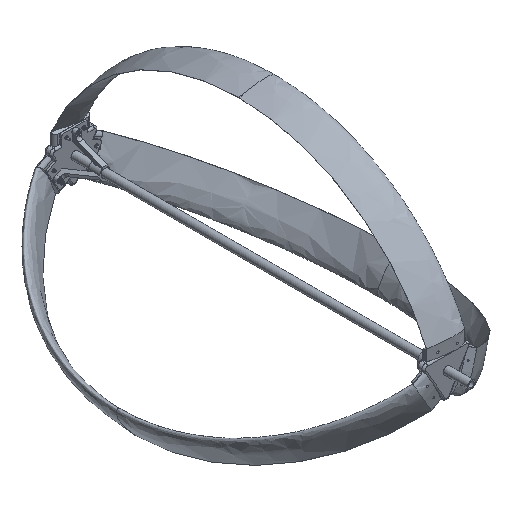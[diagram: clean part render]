
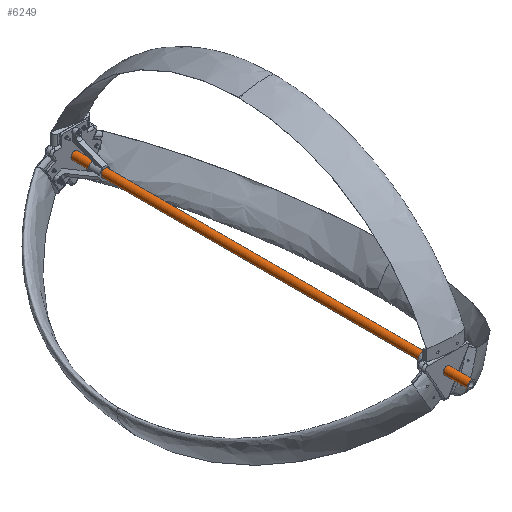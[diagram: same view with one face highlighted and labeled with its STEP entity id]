
A CAD part, isometric view. The second image highlights one B-rep face of the part: STEP entity #6249.
In plain terms, the highlighted cylindrical face has radius 10 mm (diameter 20 mm), a full revolution.
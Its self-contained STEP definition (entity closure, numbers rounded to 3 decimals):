
#896=FACE_OUTER_BOUND('',#1322,.T.);
#1322=EDGE_LOOP('',(#5126,#5127,#5128,#5129,#5130));
#1798=LINE('',#15089,#2161);
#2161=VECTOR('',#8459,10.);
#2500=CIRCLE('',#7100,10.);
#2501=CIRCLE('',#7101,10.);
#2502=CIRCLE('',#7103,10.);
#2980=VERTEX_POINT('',#15082);
#2981=VERTEX_POINT('',#15084);
#2982=VERTEX_POINT('',#15088);
#3735=EDGE_CURVE('',#2980,#2981,#2500,.T.);
#3736=EDGE_CURVE('',#2981,#2980,#2501,.T.);
#3737=EDGE_CURVE('',#2981,#2982,#1798,.T.);
#3738=EDGE_CURVE('',#2982,#2982,#2502,.T.);
#5126=ORIENTED_EDGE('',*,*,#3735,.F.);
#5127=ORIENTED_EDGE('',*,*,#3736,.F.);
#5128=ORIENTED_EDGE('',*,*,#3737,.T.);
#5129=ORIENTED_EDGE('',*,*,#3738,.T.);
#5130=ORIENTED_EDGE('',*,*,#3737,.F.);
#6011=CYLINDRICAL_SURFACE('',#7102,10.);
#6249=ADVANCED_FACE('',(#896),#6011,.T.);
#7100=AXIS2_PLACEMENT_3D('',#15085,#8453,#8454);
#7101=AXIS2_PLACEMENT_3D('',#15086,#8455,#8456);
#7102=AXIS2_PLACEMENT_3D('',#15087,#8457,#8458);
#7103=AXIS2_PLACEMENT_3D('',#15090,#8460,#8461);
#8453=DIRECTION('center_axis',(0.,1.,0.));
#8454=DIRECTION('ref_axis',(1.,0.,0.));
#8455=DIRECTION('center_axis',(0.,1.,0.));
#8456=DIRECTION('ref_axis',(1.,0.,0.));
#8457=DIRECTION('center_axis',(0.,1.,0.));
#8458=DIRECTION('ref_axis',(-1.,0.,0.));
#8459=DIRECTION('',(0.,-1.,0.));
#8460=DIRECTION('center_axis',(0.,1.,0.));
#8461=DIRECTION('ref_axis',(-1.,0.,0.));
#15082=CARTESIAN_POINT('',(-10.,1099.6,0.));
#15084=CARTESIAN_POINT('',(10.,1099.6,0.));
#15085=CARTESIAN_POINT('Origin',(0.,1099.6,0.));
#15086=CARTESIAN_POINT('Origin',(0.,1099.6,0.));
#15087=CARTESIAN_POINT('Origin',(0.,0.,0.));
#15088=CARTESIAN_POINT('',(10.,0.,0.));
#15089=CARTESIAN_POINT('',(10.,0.,0.));
#15090=CARTESIAN_POINT('Origin',(0.,0.,0.));
